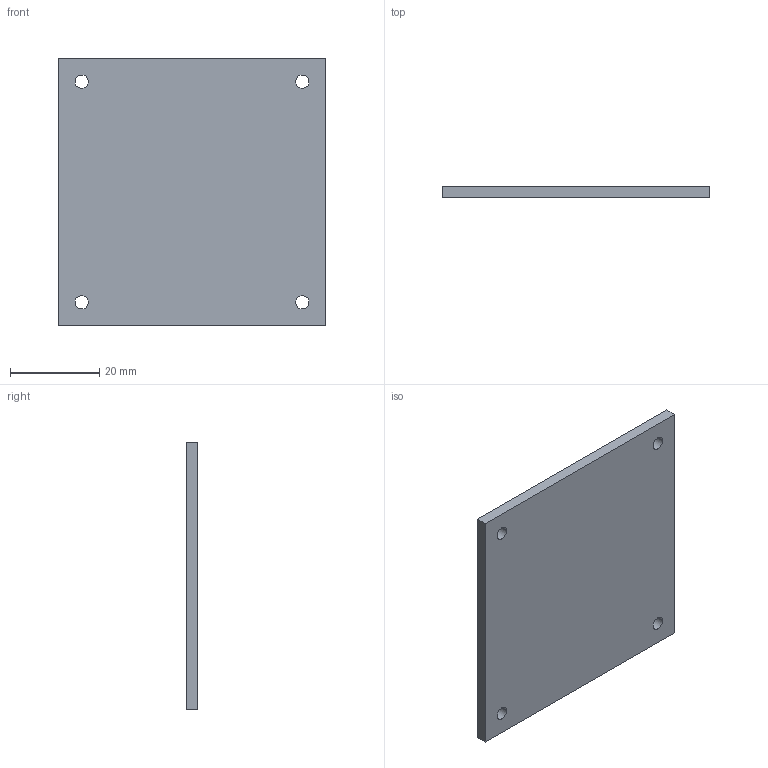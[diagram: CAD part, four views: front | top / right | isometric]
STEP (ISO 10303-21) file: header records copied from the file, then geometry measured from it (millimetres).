
FILE_DESCRIPTION((''),'2;1');
FILE_NAME('BOTTOM_GAP','2026-11-09T',('PC'),(''),'PRO/ENGINEER BY PARAMETRIC TECHNOLOGY CORPORATION, 2014320','PRO/ENGINEER BY PARAMETRIC TECHNOLOGY CORPORATION, 2014320','');
FILE_SCHEMA(('CONFIG_CONTROL_DESIGN'));
Length unit declared in the file: millimetre
Products named in the file (1): BOTTOM_GAP
Bounding box: 60 x 2.5 x 60 mm (x, y, z)
Volume: 8929.3 mm3; surface area: 7837.7 mm2
Topology: 1 solids, 1 shells, 14 faces, 36 edges, 24 vertices
Faces by surface type: cylinder 8, plane 6
Entity records: 490 total; most frequent: DIRECTION 80, CARTESIAN_POINT 74, ORIENTED_EDGE 72, EDGE_CURVE 36, AXIS2_PLACEMENT_3D 30, VERTEX_POINT 24, EDGE_LOOP 22, VECTOR 20
